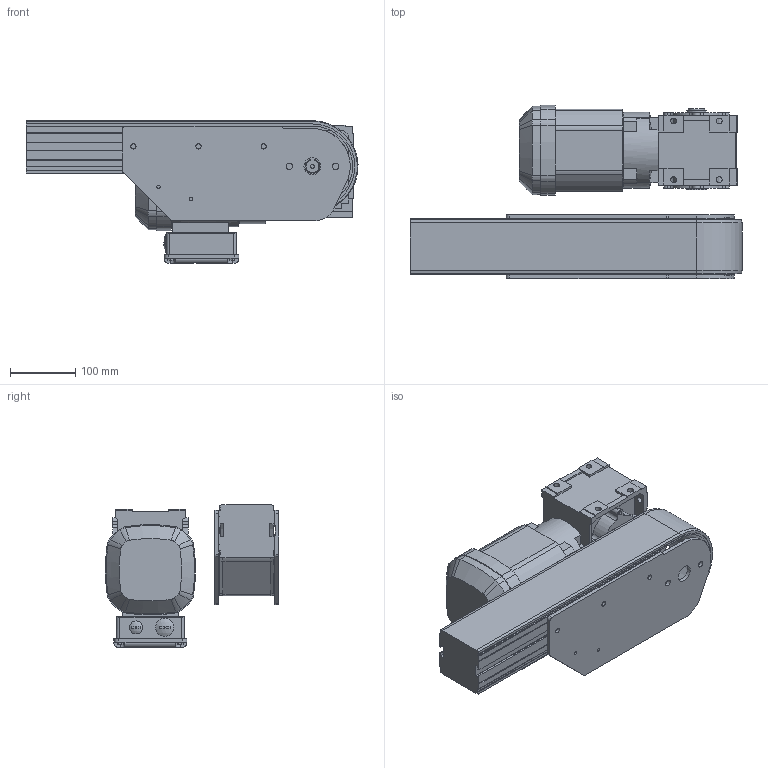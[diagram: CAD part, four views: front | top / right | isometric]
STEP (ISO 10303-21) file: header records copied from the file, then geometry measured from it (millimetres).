
FILE_DESCRIPTION((''),'2;1');
FILE_NAME('C:\Vault Klient\Projekt\Koncept konstruktion\Serie 830 Drivenhet\830-370V.stp','2010-11-08T07:17:31',('Mathias'),(''),'Autodesk Inventor 2011','Autodesk Inventor 2011','');
FILE_SCHEMA(('AUTOMOTIVE_DESIGN { 1 0 10303 214 1 1 1 1 }'));
Length unit declared in the file: millimetre
Products named in the file (1): 830-370V
Bounding box: 509.96 x 266.14 x 219 mm (x, y, z)
Volume: 8366691.8 mm3; surface area: 696622.7 mm2
Topology: 3 solids, 6 shells, 619 faces, 1739 edges, 1144 vertices
Faces by surface type: plane 387, cylinder 198, cone 16, bspline 16, sphere 2
Full cylindrical faces by diameter (mm): 5 x4, 6 x9, 8 x6, 9 x8, 10 x4, 20 x1, 25 x1, 26 x2, 28 x1, 30 x2
Entity records: 21071 total; most frequent: CARTESIAN_POINT 4260, ORIENTED_EDGE 3372, DIRECTION 3302, EDGE_CURVE 1686, VECTOR 1188, LINE 1188, VERTEX_POINT 1134, AXIS2_PLACEMENT_3D 1057
